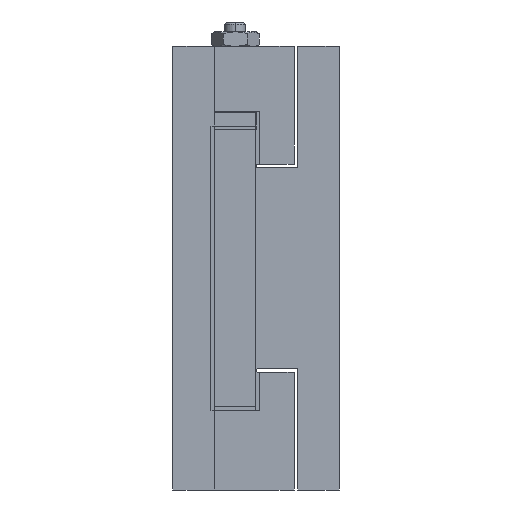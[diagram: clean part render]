
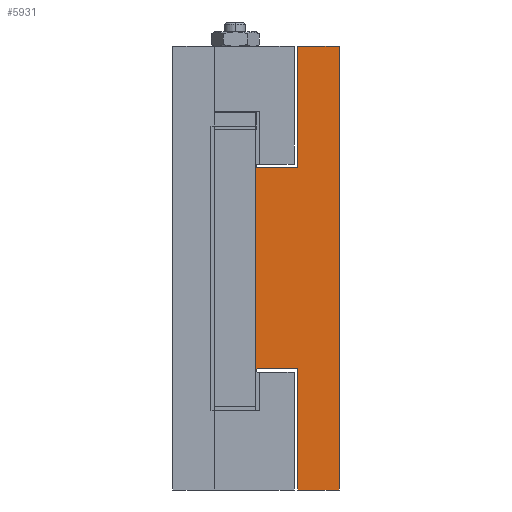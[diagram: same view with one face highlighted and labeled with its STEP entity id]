
A CAD part, left-side view. The second image highlights one B-rep face of the part: STEP entity #5931.
In plain terms, the highlighted planar face has unit normal (-1, 0, 0).
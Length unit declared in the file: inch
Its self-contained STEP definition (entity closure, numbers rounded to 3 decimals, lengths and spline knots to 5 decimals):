
#60 = VERTEX_POINT ( 'NONE', #839 ) ;
#839 = CARTESIAN_POINT ( 'NONE',  ( 0., 0.75, 0.90625 ) ) ;
#2268 = LINE ( 'NONE', #2280, #2329 ) ;
#2271 = DIRECTION ( 'NONE',  ( 0., -1., 0. ) ) ;
#2280 = CARTESIAN_POINT ( 'NONE',  ( 0., 0.375, 2. ) ) ;
#2281 = VECTOR ( 'NONE', #2271, 39.37008 ) ;
#2328 = DIRECTION ( 'NONE',  ( 0., 0., -1. ) ) ;
#2329 = VECTOR ( 'NONE', #2328, 39.37008 ) ;
#2330 = CARTESIAN_POINT ( 'NONE',  ( 0., 0.75, 2. ) ) ;
#2331 = LINE ( 'NONE', #2330, #2281 ) ;
#2558 = LINE ( 'NONE', #2609, #2608 ) ;
#2607 = DIRECTION ( 'NONE',  ( 0., -1., 0. ) ) ;
#2608 = VECTOR ( 'NONE', #2607, 39.37008 ) ;
#2609 = CARTESIAN_POINT ( 'NONE',  ( 0., 0.75, -0.90625 ) ) ;
#3134 = CARTESIAN_POINT ( 'NONE',  ( 0., 0.75, -0.90625 ) ) ;
#3165 = DIRECTION ( 'NONE',  ( 0., 1., 0. ) ) ;
#3166 = VECTOR ( 'NONE', #3165, 39.37008 ) ;
#3167 = CARTESIAN_POINT ( 'NONE',  ( 0., 0.75, 0.90625 ) ) ;
#3168 = LINE ( 'NONE', #3167, #3166 ) ;
#3178 = DIRECTION ( 'NONE',  ( 0., 0., -1. ) ) ;
#3179 = VECTOR ( 'NONE', #3178, 39.37008 ) ;
#3191 = LINE ( 'NONE', #3192, #3179 ) ;
#3192 = CARTESIAN_POINT ( 'NONE',  ( 0., 0., 2. ) ) ;
#3194 = CARTESIAN_POINT ( 'NONE',  ( 0., 0., 2. ) ) ;
#3197 = VECTOR ( 'NONE', #3246, 39.37008 ) ;
#3200 = CARTESIAN_POINT ( 'NONE',  ( 0., 0.375, 0.90625 ) ) ;
#3201 = CARTESIAN_POINT ( 'NONE',  ( 0., 0.375, 2. ) ) ;
#3208 = CARTESIAN_POINT ( 'NONE',  ( 0., 0.75, -2. ) ) ;
#3209 = LINE ( 'NONE', #3208, #3197 ) ;
#3234 = DIRECTION ( 'NONE',  ( 0., 0., -1. ) ) ;
#3235 = DIRECTION ( 'NONE',  ( 1., 0., 0. ) ) ;
#3236 = CARTESIAN_POINT ( 'NONE',  ( 0., 0., 2. ) ) ;
#3242 = AXIS2_PLACEMENT_3D ( 'NONE', #3236, #3235, #3234 ) ;
#3243 = FACE_OUTER_BOUND ( 'NONE', #6222, .T. ) ;
#3244 = PLANE ( 'NONE',  #3242 ) ;
#3245 = CARTESIAN_POINT ( 'NONE',  ( 0., 0., -2. ) ) ;
#3246 = DIRECTION ( 'NONE',  ( 0., 1., 0. ) ) ;
#3258 = ORIENTED_EDGE ( 'NONE', *, *, #5914, .T. ) ;
#3496 = DIRECTION ( 'NONE',  ( 0., 0., 1. ) ) ;
#3497 = VECTOR ( 'NONE', #3496, 39.37008 ) ;
#3498 = CARTESIAN_POINT ( 'NONE',  ( 0., 0.75, 2. ) ) ;
#3499 = LINE ( 'NONE', #3498, #3497 ) ;
#3775 = DIRECTION ( 'NONE',  ( 0., 0., -1. ) ) ;
#3776 = VECTOR ( 'NONE', #3775, 39.37008 ) ;
#3777 = CARTESIAN_POINT ( 'NONE',  ( 0., 0.375, -2. ) ) ;
#3778 = LINE ( 'NONE', #3777, #3776 ) ;
#3795 = CARTESIAN_POINT ( 'NONE',  ( 0., 0.375, -2. ) ) ;
#3835 = CARTESIAN_POINT ( 'NONE',  ( 0., 0.375, -0.90625 ) ) ;
#5400 = ORIENTED_EDGE ( 'NONE', *, *, #5435, .T. ) ;
#5435 = EDGE_CURVE ( 'NONE', #5920, #5921, #2268, .T. ) ;
#5439 = EDGE_CURVE ( 'NONE', #5920, #5932, #2331, .T. ) ;
#5440 = ORIENTED_EDGE ( 'NONE', *, *, #6097, .F. ) ;
#5448 = ORIENTED_EDGE ( 'NONE', *, *, #5439, .F. ) ;
#5619 = EDGE_CURVE ( 'NONE', #5903, #6267, #2558, .T. ) ;
#5903 = VERTEX_POINT ( 'NONE', #3134 ) ;
#5909 = EDGE_CURVE ( 'NONE', #5932, #5929, #3191, .T. ) ;
#5914 = EDGE_CURVE ( 'NONE', #5921, #60, #3168, .T. ) ;
#5920 = VERTEX_POINT ( 'NONE', #3201 ) ;
#5921 = VERTEX_POINT ( 'NONE', #3200 ) ;
#5922 = ORIENTED_EDGE ( 'NONE', *, *, #5619, .T. ) ;
#5923 = EDGE_CURVE ( 'NONE', #5929, #6251, #3209, .T. ) ;
#5924 = ORIENTED_EDGE ( 'NONE', *, *, #5923, .F. ) ;
#5925 = ORIENTED_EDGE ( 'NONE', *, *, #6234, .T. ) ;
#5929 = VERTEX_POINT ( 'NONE', #3245 ) ;
#5930 = ORIENTED_EDGE ( 'NONE', *, *, #5909, .F. ) ;
#5931 = ADVANCED_FACE ( 'NONE', ( #3243 ), #3244, .F. ) ;
#5932 = VERTEX_POINT ( 'NONE', #3194 ) ;
#6097 = EDGE_CURVE ( 'NONE', #5903, #60, #3499, .T. ) ;
#6222 = EDGE_LOOP ( 'NONE', ( #5922, #5925, #5924, #5930, #5448, #5400, #3258, #5440 ) ) ;
#6234 = EDGE_CURVE ( 'NONE', #6267, #6251, #3778, .T. ) ;
#6251 = VERTEX_POINT ( 'NONE', #3795 ) ;
#6267 = VERTEX_POINT ( 'NONE', #3835 ) ;
